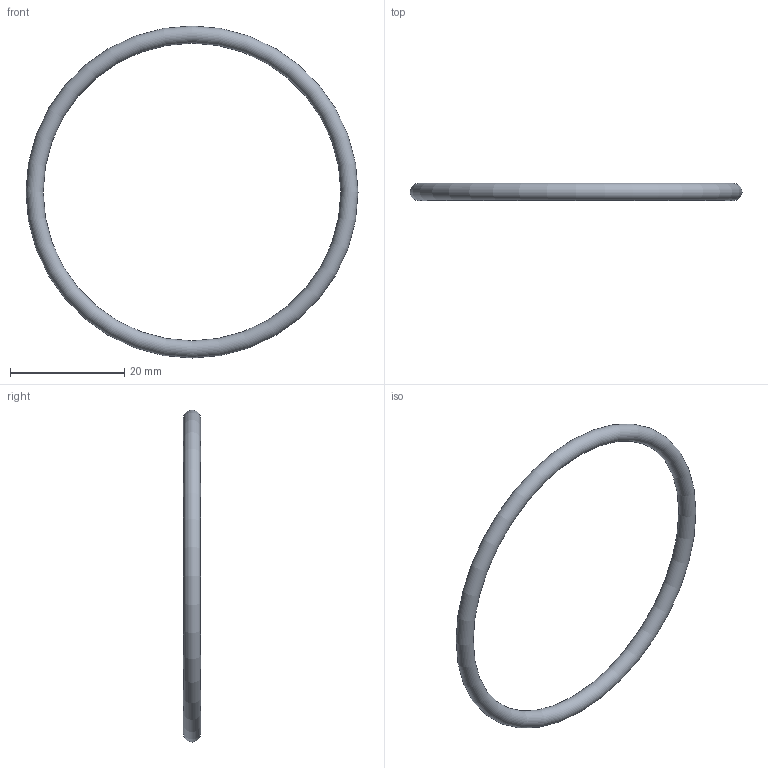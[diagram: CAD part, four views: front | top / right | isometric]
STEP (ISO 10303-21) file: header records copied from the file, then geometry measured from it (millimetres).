
FILE_DESCRIPTION( ( 'STEP AP203' ), '1' );
FILE_NAME( 'C:/Temp/Ganter_Step_05_03_2020/data/3_5/or638/O-Ring OR638-52.00-3.00-70.stp', '2020-03-12T13:44:31', ( 'License CC BY-ND 4.0' ), ( 'CADENAS' ), ' ', 'PARTsolutions', ' ' );
FILE_SCHEMA( ( 'CONFIG_CONTROL_DESIGN' ) );
Length unit declared in the file: millimetre
Products named in the file (1): _O-Ring OR638-52.00-3.00-70
Bounding box: 58 x 3 x 58 mm (x, y, z)
Volume: 1221.4 mm3; surface area: 1628.5 mm2
Topology: 1 solids, 1 shells, 1 faces, 2 edges, 1 vertices
Faces by surface type: torus 1
Entity records: 62 total; most frequent: CC_DESIGN_PERSON_AND_ORGANIZATION_ASSIGNMENT 5, PERSON_AND_ORGANIZATION_ROLE 4, DIRECTION 4, CARTESIAN_POINT 3, DATE_TIME_ROLE 2, CC_DESIGN_DATE_AND_TIME_ASSIGNMENT 2, AXIS2_PLACEMENT_3D 2, DIMENSIONAL_EXPONENTS 2
